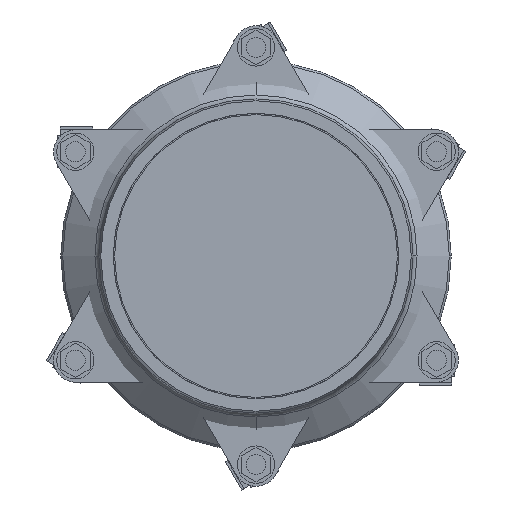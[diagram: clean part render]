
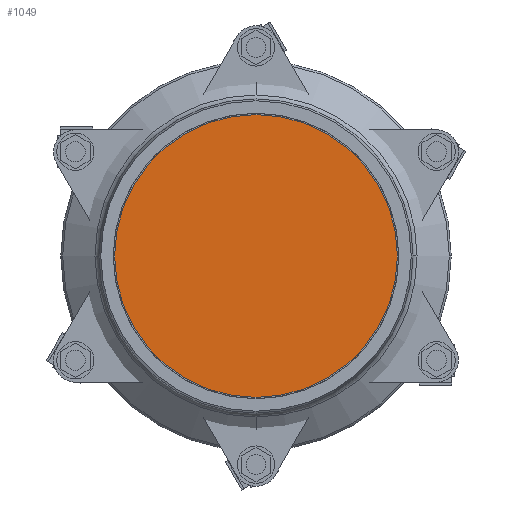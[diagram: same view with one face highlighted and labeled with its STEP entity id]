
A CAD part, left-side view. The second image highlights one B-rep face of the part: STEP entity #1049.
In plain terms, the highlighted planar face has unit normal (-1, 0, 0).
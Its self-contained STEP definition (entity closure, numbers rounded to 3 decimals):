
#1049=ADVANCED_FACE('',(#2180),#2181,.T.);
#2180=FACE_OUTER_BOUND('',#3786,.T.);
#2181=PLANE('',#3787);
#3786=EDGE_LOOP('',(#5224,#5225));
#3787=AXIS2_PLACEMENT_3D('',#5226,#5227,#5228);
#5224=ORIENTED_EDGE('',*,*,#8514,.T.);
#5225=ORIENTED_EDGE('',*,*,#8490,.T.);
#5226=CARTESIAN_POINT('',(113.5,0.0,0.));
#5227=DIRECTION('',(-1.0,0.0,0.));
#5228=DIRECTION('',(0.,0.0,-1.0));
#8490=EDGE_CURVE('',#9921,#9919,#9922,.T.);
#8514=EDGE_CURVE('',#9919,#9921,#9961,.T.);
#9919=VERTEX_POINT('',#11900);
#9921=VERTEX_POINT('',#11903);
#9922=CIRCLE('',#11904,128.0);
#9961=CIRCLE('',#11957,128.0);
#11900=CARTESIAN_POINT('',(113.5,0.0,-128.0));
#11903=CARTESIAN_POINT('',(113.5,0.,128.0));
#11904=AXIS2_PLACEMENT_3D('',#14377,#14378,#14379);
#11957=AXIS2_PLACEMENT_3D('',#14406,#14407,#14408);
#14377=CARTESIAN_POINT('',(113.5,0.0,0.));
#14378=DIRECTION('',(-1.0,0.0,0.));
#14379=DIRECTION('',(0.,0.0,-1.0));
#14406=CARTESIAN_POINT('',(113.5,0.0,0.));
#14407=DIRECTION('',(-1.0,0.0,0.));
#14408=DIRECTION('',(0.,0.0,-1.0));
